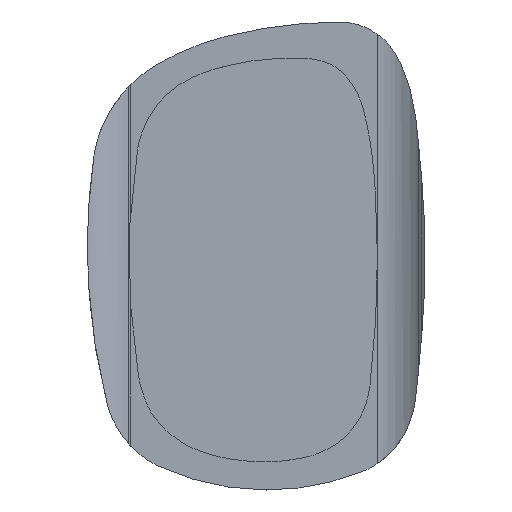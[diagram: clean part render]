
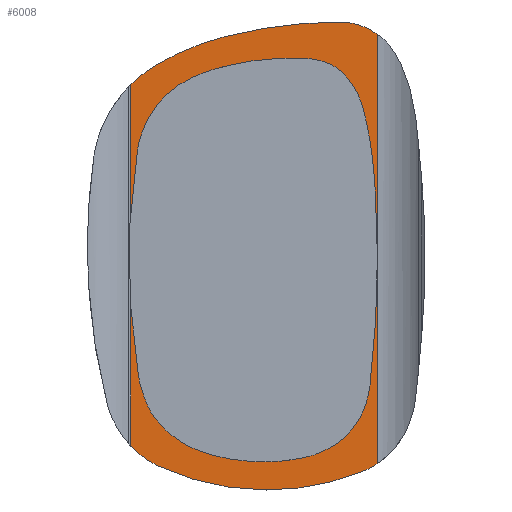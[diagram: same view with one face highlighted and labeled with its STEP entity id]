
A CAD part, top view. The second image highlights one B-rep face of the part: STEP entity #6008.
In plain terms, the highlighted planar face has unit normal (0, 0, 1) as drawn and (0, -1, 0) by its records, which use the part's own axes.
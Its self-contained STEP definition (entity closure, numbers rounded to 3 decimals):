
#86 = LINE ( 'NONE', #4055, #3994 ) ;
#113 = DIRECTION ( 'NONE',  ( 0., 1., 0. ) ) ;
#144 = DIRECTION ( 'NONE',  ( 0., 1., 0. ) ) ;
#182 = AXIS2_PLACEMENT_3D ( 'NONE', #1677, #5247, #2169 ) ;
#224 = CARTESIAN_POINT ( 'NONE',  ( 1051.866, 2134.085, 3134.906 ) ) ;
#235 = CIRCLE ( 'NONE', #3208, 281.029 ) ;
#293 = AXIS2_PLACEMENT_3D ( 'NONE', #2065, #5033, #4101 ) ;
#353 = AXIS2_PLACEMENT_3D ( 'NONE', #5906, #6036, #960 ) ;
#374 = EDGE_CURVE ( 'NONE', #3923, #993, #3860, .T. ) ;
#499 = EDGE_CURVE ( 'NONE', #2291, #3923, #235, .T. ) ;
#502 = CIRCLE ( 'NONE', #2840, 213.026 ) ;
#514 = ORIENTED_EDGE ( 'NONE', *, *, #374, .F. ) ;
#581 = CIRCLE ( 'NONE', #1329, 870.463 ) ;
#587 = CIRCLE ( 'NONE', #2072, 857.434 ) ;
#627 = CARTESIAN_POINT ( 'NONE',  ( 1124.975, 2134.085, 1852.42 ) ) ;
#630 = VERTEX_POINT ( 'NONE', #5887 ) ;
#688 = CARTESIAN_POINT ( 'NONE',  ( 445.634, 2134.085, 1873.266 ) ) ;
#727 = EDGE_CURVE ( 'NONE', #5452, #2291, #4009, .T. ) ;
#793 = ORIENTED_EDGE ( 'NONE', *, *, #5339, .F. ) ;
#805 = CARTESIAN_POINT ( 'NONE',  ( 809.448, 2134.085, 1792.254 ) ) ;
#815 = LINE ( 'NONE', #4912, #4542 ) ;
#833 = DIRECTION ( 'NONE',  ( 0., 0., -1. ) ) ;
#922 = ORIENTED_EDGE ( 'NONE', *, *, #4023, .F. ) ;
#960 = DIRECTION ( 'NONE',  ( 0., 0., -1. ) ) ;
#993 = VERTEX_POINT ( 'NONE', #805 ) ;
#1076 = PLANE ( 'NONE',  #182 ) ;
#1148 = CARTESIAN_POINT ( 'NONE',  ( 1055.638, 2134.085, 3347.675 ) ) ;
#1252 = CIRCLE ( 'NONE', #4965, 1556.011 ) ;
#1325 = CIRCLE ( 'NONE', #353, 69.609 ) ;
#1329 = AXIS2_PLACEMENT_3D ( 'NONE', #2156, #6306, #5663 ) ;
#1677 = CARTESIAN_POINT ( 'NONE',  ( 641.506, 2134.085, 2458.577 ) ) ;
#1766 = DIRECTION ( 'NONE',  ( 0., 1., 0. ) ) ;
#1789 = CIRCLE ( 'NONE', #2727, 438.041 ) ;
#1839 = DIRECTION ( 'NONE',  ( 0., 1., 0. ) ) ;
#1885 = ORIENTED_EDGE ( 'NONE', *, *, #4291, .F. ) ;
#1989 = VERTEX_POINT ( 'NONE', #3138 ) ;
#2041 = CARTESIAN_POINT ( 'NONE',  ( 641.506, 2134.085, 3347.675 ) ) ;
#2044 = VECTOR ( 'NONE', #2536, 1000. ) ;
#2065 = CARTESIAN_POINT ( 'NONE',  ( 588.612, 2134.085, 2158.886 ) ) ;
#2072 = AXIS2_PLACEMENT_3D ( 'NONE', #2222, #4222, #4159 ) ;
#2098 = ORIENTED_EDGE ( 'NONE', *, *, #5122, .F. ) ;
#2147 = DIRECTION ( 'NONE',  ( 0., 0., -1. ) ) ;
#2156 = CARTESIAN_POINT ( 'NONE',  ( 886.211, 2134.085, 2455.961 ) ) ;
#2169 = DIRECTION ( 'NONE',  ( 0., 0., 1. ) ) ;
#2222 = CARTESIAN_POINT ( 'NONE',  ( 809.448, 2134.085, 2649.688 ) ) ;
#2233 = VERTEX_POINT ( 'NONE', #4990 ) ;
#2286 = DIRECTION ( 'NONE',  ( 0., 0., 1. ) ) ;
#2291 = VERTEX_POINT ( 'NONE', #4164 ) ;
#2312 = CIRCLE ( 'NONE', #293, 319.408 ) ;
#2335 = ORIENTED_EDGE ( 'NONE', *, *, #3518, .F. ) ;
#2364 = EDGE_CURVE ( 'NONE', #4065, #2639, #581, .T. ) ;
#2429 = CARTESIAN_POINT ( 'NONE',  ( 1176.599, 2134.085, 3307.596 ) ) ;
#2491 = DIRECTION ( 'NONE',  ( 0., 0., -1. ) ) ;
#2529 = VERTEX_POINT ( 'NONE', #2429 ) ;
#2530 = CARTESIAN_POINT ( 'NONE',  ( 665.846, 2134.085, 2828.021 ) ) ;
#2536 = DIRECTION ( 'NONE',  ( 0., 0., -1. ) ) ;
#2639 = VERTEX_POINT ( 'NONE', #4651 ) ;
#2646 = CARTESIAN_POINT ( 'NONE',  ( 1021.559, 2134.085, 2113.729 ) ) ;
#2727 = AXIS2_PLACEMENT_3D ( 'NONE', #2530, #6612, #2491 ) ;
#2840 = AXIS2_PLACEMENT_3D ( 'NONE', #224, #1766, #4266 ) ;
#2865 = EDGE_CURVE ( 'NONE', #2639, #1989, #1252, .T. ) ;
#2899 = ORIENTED_EDGE ( 'NONE', *, *, #6573, .F. ) ;
#3138 = CARTESIAN_POINT ( 'NONE',  ( 1055.578, 2134.085, 3347.675 ) ) ;
#3160 = ORIENTED_EDGE ( 'NONE', *, *, #2364, .F. ) ;
#3208 = AXIS2_PLACEMENT_3D ( 'NONE', #2646, #113, #2147 ) ;
#3518 = EDGE_CURVE ( 'NONE', #2233, #2529, #502, .T. ) ;
#3538 = DIRECTION ( 'NONE',  ( 1., 0., 0. ) ) ;
#3860 = CIRCLE ( 'NONE', #5031, 857.434 ) ;
#3900 = VECTOR ( 'NONE', #3538, 1000. ) ;
#3923 = VERTEX_POINT ( 'NONE', #627 ) ;
#3935 = CARTESIAN_POINT ( 'NONE',  ( 1055.578, 2134.085, 1791.664 ) ) ;
#3994 = VECTOR ( 'NONE', #5161, 1000. ) ;
#4009 = LINE ( 'NONE', #6518, #2044 ) ;
#4023 = EDGE_CURVE ( 'NONE', #993, #5282, #587, .T. ) ;
#4037 = ORIENTED_EDGE ( 'NONE', *, *, #727, .F. ) ;
#4055 = CARTESIAN_POINT ( 'NONE',  ( 1176.599, 2134.085, 2458.577 ) ) ;
#4065 = VERTEX_POINT ( 'NONE', #4819 ) ;
#4101 = DIRECTION ( 'NONE',  ( 0., 0., -1. ) ) ;
#4159 = DIRECTION ( 'NONE',  ( 0., 0., -1. ) ) ;
#4164 = CARTESIAN_POINT ( 'NONE',  ( 1176.599, 2134.085, 1879.337 ) ) ;
#4220 = CARTESIAN_POINT ( 'NONE',  ( 809.448, 2134.085, 2649.688 ) ) ;
#4222 = DIRECTION ( 'NONE',  ( 0., 1., 0. ) ) ;
#4266 = DIRECTION ( 'NONE',  ( 0., 0., -1. ) ) ;
#4291 = EDGE_CURVE ( 'NONE', #1989, #6081, #6550, .T. ) ;
#4522 = EDGE_CURVE ( 'NONE', #6081, #2233, #1325, .T. ) ;
#4542 = VECTOR ( 'NONE', #2286, 1000. ) ;
#4567 = ORIENTED_EDGE ( 'NONE', *, *, #4522, .F. ) ;
#4651 = CARTESIAN_POINT ( 'NONE',  ( 671.16, 2134.085, 3299.441 ) ) ;
#4808 = CARTESIAN_POINT ( 'NONE',  ( 357.559, 2134.085, 1938.35 ) ) ;
#4819 = CARTESIAN_POINT ( 'NONE',  ( 442.618, 2134.085, 3204.914 ) ) ;
#4912 = CARTESIAN_POINT ( 'NONE',  ( 357.559, 2134.085, 2458.577 ) ) ;
#4965 = AXIS2_PLACEMENT_3D ( 'NONE', #3935, #1839, #833 ) ;
#4990 = CARTESIAN_POINT ( 'NONE',  ( 1062.444, 2134.085, 3347.67 ) ) ;
#5031 = AXIS2_PLACEMENT_3D ( 'NONE', #4220, #144, #5191 ) ;
#5033 = DIRECTION ( 'NONE',  ( 0., 1., 0. ) ) ;
#5122 = EDGE_CURVE ( 'NONE', #2529, #5452, #86, .T. ) ;
#5161 = DIRECTION ( 'NONE',  ( 0., 0., -1. ) ) ;
#5191 = DIRECTION ( 'NONE',  ( 0., 0., -1. ) ) ;
#5247 = DIRECTION ( 'NONE',  ( 0., 1., 0. ) ) ;
#5282 = VERTEX_POINT ( 'NONE', #688 ) ;
#5339 = EDGE_CURVE ( 'NONE', #6255, #630, #815, .T. ) ;
#5452 = VERTEX_POINT ( 'NONE', #6053 ) ;
#5645 = FACE_OUTER_BOUND ( 'NONE', #5877, .T. ) ;
#5663 = DIRECTION ( 'NONE',  ( 0., 0., -1. ) ) ;
#5877 = EDGE_LOOP ( 'NONE', ( #6317, #4037, #2098, #2335, #4567, #1885, #6435, #3160, #6132, #793, #2899, #922, #514 ) ) ;
#5887 = CARTESIAN_POINT ( 'NONE',  ( 357.559, 2134.085, 3139.21 ) ) ;
#5906 = CARTESIAN_POINT ( 'NONE',  ( 1058.988, 2134.085, 3278.146 ) ) ;
#5907 = EDGE_CURVE ( 'NONE', #630, #4065, #1789, .T. ) ;
#6008 = ADVANCED_FACE ( 'NONE', ( #5645 ), #1076, .F. ) ;
#6036 = DIRECTION ( 'NONE',  ( 0., 1., 0. ) ) ;
#6053 = CARTESIAN_POINT ( 'NONE',  ( 1176.599, 2134.085, 1879.947 ) ) ;
#6081 = VERTEX_POINT ( 'NONE', #1148 ) ;
#6132 = ORIENTED_EDGE ( 'NONE', *, *, #5907, .F. ) ;
#6255 = VERTEX_POINT ( 'NONE', #4808 ) ;
#6306 = DIRECTION ( 'NONE',  ( 0., 1., 0. ) ) ;
#6317 = ORIENTED_EDGE ( 'NONE', *, *, #499, .F. ) ;
#6435 = ORIENTED_EDGE ( 'NONE', *, *, #2865, .F. ) ;
#6518 = CARTESIAN_POINT ( 'NONE',  ( 1176.599, 2134.085, 2458.577 ) ) ;
#6550 = LINE ( 'NONE', #2041, #3900 ) ;
#6573 = EDGE_CURVE ( 'NONE', #5282, #6255, #2312, .T. ) ;
#6612 = DIRECTION ( 'NONE',  ( 0., 1., 0. ) ) ;
